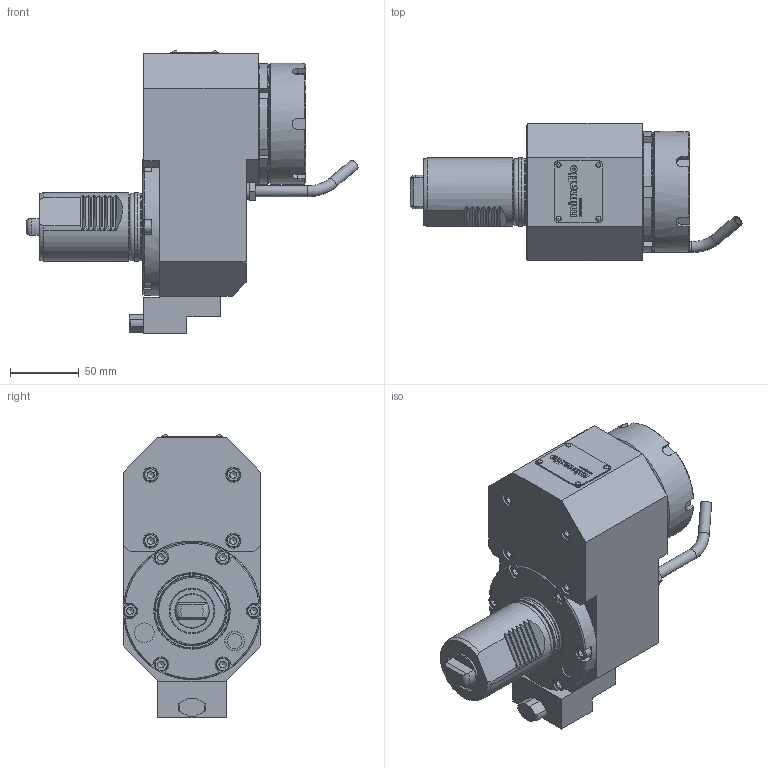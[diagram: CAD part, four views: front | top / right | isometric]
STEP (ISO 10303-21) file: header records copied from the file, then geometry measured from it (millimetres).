
FILE_DESCRIPTION(/* description */ (''),/* implementation_level */ '2;1');
FILE_NAME(/* name */ '189959',/* time_stamp */ '2020-03-04T11:40:40+01:00',/* author */ (''),/* organization */ (''),/* preprocessor_version */ 'ST-DEVELOPER v16.5',/* originating_system */ 'HiCAD 2017 2201.0 Build 268',/* authorisation */ '');
FILE_SCHEMA (('AUTOMOTIVE_DESIGN { 1 0 10303 214 1 1 1 1 }'));
Products named in the file (15): Root; Teil; DIN 13-M12x1; GEWINDE; DIN 13-M78x1
Assembly tree (14 placements, depth 3):
  Root
    Teil
      DIN 13-M12x1
      GEWINDE
      GEWINDE
      GEWINDE
      GEWINDE
      GEWINDE
      GEWINDE
      GEWINDE
      GEWINDE
      GEWINDE
      GEWINDE
      DIN 13-M78x1
      DIN 13-M78x1
Bounding box: 241.43 x 100 x 205.8 mm (x, y, z)
Volume: 1576967.8 mm3; surface area: 148974.1 mm2
Topology: 14 solids, 28 shells, 852 faces, 2158 edges, 1405 vertices
Faces by surface type: plane 524, cylinder 198, cone 67, bspline 38, torus 21, sphere 4
Full cylindrical faces by diameter (mm): 2 x4, 2.2 x4, 4.773 x20, 6 x22, 6.6 x10, 8 x2, 10 x10, 10.773 x2, 10.82 x1, 11 x4, 12 x1, 14.18 x1, 14.27 x2, 25 x1, 32 x1, 43.8 x2, 48.7 x1, 50 x2, 65.5 x1, 70 x1, 75 x1, 76.5 x1, 76.92 x3, 78 x3, 79 x1, 88 x1, 100 x1
Entity records: 52309 total; most frequent: CARTESIAN_POINT 11128, PRESENTATION_STYLE_ASSIGNMENT 4208, OVER_RIDING_STYLED_ITEM 4194, DIRECTION 3972, COLOUR_RGB 3773, DRAUGHTING_PRE_DEFINED_CURVE_FONT 3766, CURVE_STYLE 3766, ORIENTED_EDGE 3766
